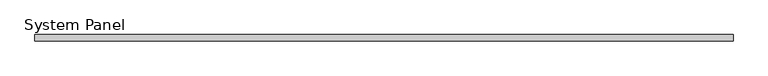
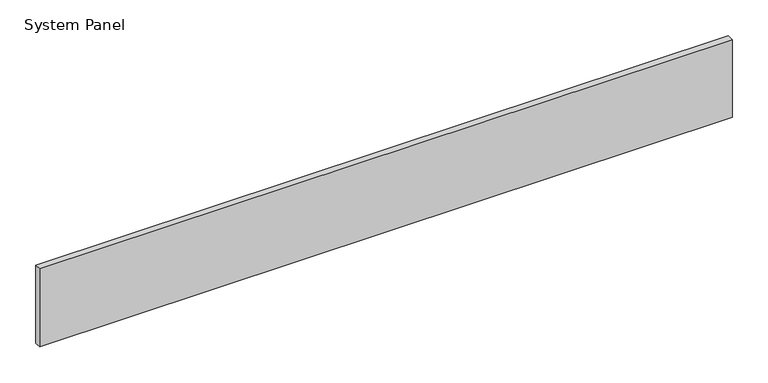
"""IFC4 building model written with IfcOpenShell, lengths in millimetres: plate geometry, System Panel : VACÍO."""

import ifcopenshell
import ifcopenshell.guid

model = None  # the IFC model being written
_history = None  # IfcOwnerHistory: only IFC2X3 demands one
_inside = {}  # id of a spatial element -> (the spatial element, [elements in it])
_under = {}  # id of a project, library or spatial element -> (it, [spatial elements below it])
_declared = {}  # id of a project -> (the project, [libraries it declares])
_typed = {}  # id of a type object -> (the type object, [elements of that type])
_made_of = {}  # id of a material, layer set ... -> (it, [elements and type objects made of it])


def new_model(schema):
    """Start an empty IFC model of exactly this schema.

    Asked for "IFC4X3", IfcOpenShell would pick the latest addendum, in which some entities
    have other attributes; the version numbers below select the first issue.
    IFC2X3 requires an IfcOwnerHistory on every rooted entity: one is made here for all.
    """
    global model, _history
    if schema == "IFC4X3":
        model = ifcopenshell.file(schema_version=(4, 3, 0, 0))
    else:
        model = ifcopenshell.file(schema=schema)
    _inside.clear()
    _under.clear()
    _declared.clear()
    _typed.clear()
    _made_of.clear()
    _history = None
    if model.schema == "IFC2X3":
        org = make("IfcOrganization", Name="unknown")
        user = make(
            "IfcPersonAndOrganization",
            ThePerson=make("IfcPerson", FamilyName="unknown"),
            TheOrganization=org,
        )
        app = make(
            "IfcApplication",
            ApplicationDeveloper=org,
            Version="unknown",
            ApplicationFullName="unknown",
            ApplicationIdentifier="unknown",
        )
        _history = make(
            "IfcOwnerHistory",
            OwningUser=user,
            OwningApplication=app,
            ChangeAction="ADDED",
            CreationDate=0,
        )
    return model


def make(cls, **values):
    """One entity of the class cls with the attributes given. An attribute that is None is left unset."""
    return model.create_entity(
        cls, **{name: value for name, value in values.items() if value is not None}
    )


def rooted(cls, **values):
    """An entity with a GlobalId (a new one), such as an element, a storey or a relation."""
    return make(cls, GlobalId=ifcopenshell.guid.new(), OwnerHistory=_history, **values)


def si_unit(unit_type, name, prefix=None):
    """IfcSIUnit, for example si_unit("LENGTHUNIT", "METRE", prefix="MILLI")."""
    return make("IfcSIUnit", UnitType=unit_type, Prefix=prefix, Name=name)


def assignment(units):
    """IfcUnitAssignment: the units of a project."""
    return None if units is None else make("IfcUnitAssignment", Units=units)


def point(xyz):
    """IfcCartesianPoint."""
    return None if xyz is None else make("IfcCartesianPoint", Coordinates=xyz)


def direction(xyz):
    """IfcDirection."""
    return None if xyz is None else make("IfcDirection", DirectionRatios=xyz)


def frame(location, z_axis=None, x_axis=None):
    """IfcAxis2Placement3D, a coordinate frame: its origin and axes. An axis left out is left unset."""
    return make(
        "IfcAxis2Placement3D",
        Location=point(location),
        Axis=direction(z_axis),
        RefDirection=direction(x_axis),
    )


def origin():
    """The frame at (0, 0, 0) with its axes left unset."""
    return frame((0.0, 0.0, 0.0))


def origin_with_axes():
    """The frame at (0, 0, 0) with the z axis (0, 0, 1) and the x axis (1, 0, 0) written out."""
    return frame((0.0, 0.0, 0.0), z_axis=(0.0, 0.0, 1.0), x_axis=(1.0, 0.0, 0.0))


def place(relative_to, where):
    """IfcLocalPlacement: puts the frame where relative to a parent placement (None: the world)."""
    return make(
        "IfcLocalPlacement", PlacementRelTo=relative_to, RelativePlacement=where
    )


def context(
    kind, dimensions, precision=None, world=None, true_north=None, identifier=None
):
    """IfcGeometricRepresentationContext, for example the 3D "Model" context."""
    return make(
        "IfcGeometricRepresentationContext",
        ContextIdentifier=identifier,
        ContextType=kind,
        CoordinateSpaceDimension=dimensions,
        Precision=precision,
        WorldCoordinateSystem=world,
        TrueNorth=true_north,
    )


def project(units=None, contexts=None):
    """IfcProject with its units and contexts."""
    return rooted(
        "IfcProject",
        Name="project",
        RepresentationContexts=contexts,
        UnitsInContext=assignment(units),
    )


def spatial(cls, under=None, at=None, **own):
    """A site, building, storey or space (cls), placed at a placement, below another one or the project."""
    s = rooted(cls, ObjectPlacement=at, **own)
    if under is not None:
        _under.setdefault(under.id(), (under, []))[1].append(s)
    return s


def polyline(points):
    """IfcPolyline through the points."""
    return make("IfcPolyline", Points=[point(p) for p in points])


def outline(outer, holes=None, kind="AREA"):
    """IfcArbitraryClosedProfileDef: a profile drawn as a closed curve; with holes, ...WithVoids."""
    if holes is None:
        return make("IfcArbitraryClosedProfileDef", ProfileType=kind, OuterCurve=outer)
    return make(
        "IfcArbitraryProfileDefWithVoids",
        ProfileType=kind,
        OuterCurve=outer,
        InnerCurves=holes,
    )


def extrude(swept, where, along, depth):
    """IfcExtrudedAreaSolid: the profile swept, set in the frame where, extruded along a direction by depth."""
    return make(
        "IfcExtrudedAreaSolid",
        SweptArea=swept,
        Position=where,
        ExtrudedDirection=direction(along),
        Depth=depth,
    )


def shape(context_of_items, identifier, shape_type, items):
    """IfcShapeRepresentation: the items that make up one representation, for example the "Body"."""
    return make(
        "IfcShapeRepresentation",
        ContextOfItems=context_of_items,
        RepresentationIdentifier=identifier,
        RepresentationType=shape_type,
        Items=items,
    )


def source(mapping_origin, context_of_items, identifier, shape_type, items):
    """IfcRepresentationMap: a shape defined once, which mapped items show again and again."""
    return make(
        "IfcRepresentationMap",
        MappingOrigin=mapping_origin,
        MappedRepresentation=shape(context_of_items, identifier, shape_type, items),
    )


def transform(
    local_origin,
    x_axis=None,
    y_axis=None,
    z_axis=None,
    scale=None,
    scale2=None,
    scale3=None,
    uniform=True,
):
    """IfcCartesianTransformationOperator3D, or its non-uniform kind. x_axis, y_axis, z_axis: its Axis1, 2, 3."""
    if uniform:
        return make(
            "IfcCartesianTransformationOperator3D",
            Axis1=direction(x_axis),
            Axis2=direction(y_axis),
            LocalOrigin=point(local_origin),
            Scale=scale,
            Axis3=direction(z_axis),
        )
    return make(
        "IfcCartesianTransformationOperator3DnonUniform",
        Axis1=direction(x_axis),
        Axis2=direction(y_axis),
        LocalOrigin=point(local_origin),
        Scale=scale,
        Axis3=direction(z_axis),
        Scale2=scale2,
        Scale3=scale3,
    )


def mapped(mapping_source, mapping_target):
    """IfcMappedItem: shows the shape of a source again, moved by a transform."""
    return make(
        "IfcMappedItem", MappingSource=mapping_source, MappingTarget=mapping_target
    )


def made_of(thing, what):
    """Note that an element or type object is made of a material, layer set ...; save() writes the relation."""
    if what is not None:
        _made_of.setdefault(what.id(), (what, []))[1].append(thing)
    return thing


def element(
    cls,
    number,
    at=None,
    inside=None,
    cuts=None,
    type_object=None,
    material=None,
    context=None,
    identifier="Body",
    shape_type=None,
    held_by="IfcProductDefinitionShape",
    body=None,
    shapes=None,
    **own,
):
    """One element of the class cls, such as IfcWall. Its Tag is "e" and its number.

    at: its placement. inside: the storey or other place that contains it. cuts: it is an
    opening in that element (IfcRelVoidsElement). A single representation is given by context,
    identifier, shape_type and body (its items); several are given by shapes. held_by: the class
    of the entity that holds the representations. save() writes the other relations.
    """
    e = rooted(cls, Tag="e%d" % number, ObjectPlacement=at, **own)
    if body is not None:
        shapes = [shape(context, identifier, shape_type, body)]
    if shapes is not None:
        e.Representation = make(held_by, Representations=shapes)
    if inside is not None:
        _inside.setdefault(inside.id(), (inside, []))[1].append(e)
    if cuts is not None:
        rooted(
            "IfcRelVoidsElement", RelatingBuildingElement=cuts, RelatedOpeningElement=e
        )
    if type_object is not None:
        _typed.setdefault(type_object.id(), (type_object, []))[1].append(e)
    return made_of(e, material)


def aggregate(whole, parts):
    """IfcRelAggregates: a whole, such as a stair, and the parts it consists of."""
    return rooted("IfcRelAggregates", RelatingObject=whole, RelatedObjects=parts)


def save(model, path):
    """Write the relations noted so far, then the file.

    IfcRelAggregates (storeys below a building ...), IfcRelContainedInSpatialStructure (elements
    in a storey), IfcRelDefinesByType, IfcRelAssociatesMaterial and IfcRelDeclares: one each for
    every whole, place, type object, material and project.
    """
    for whole, parts in _under.values():
        aggregate(whole, parts)
    for where, things in _inside.values():
        rooted(
            "IfcRelContainedInSpatialStructure",
            RelatedElements=things,
            RelatingStructure=where,
        )
    for kind, things in _typed.values():
        rooted("IfcRelDefinesByType", RelatedObjects=things, RelatingType=kind)
    for what, things in _made_of.values():
        rooted("IfcRelAssociatesMaterial", RelatedObjects=things, RelatingMaterial=what)
    for by, libraries in _declared.values():
        rooted("IfcRelDeclares", RelatingContext=by, RelatedDefinitions=libraries)
    model.write(path)


def system_panel_162e740d(model_context):
    return source(origin(), model_context, "Body", "SweptSolid", [
        extrude(outline(polyline([(556.1350437, -5.0), (-556.1350437, -5.0), (-556.1350437, 5.0), (556.1350437, 5.0), (556.1350437, -5.0)])), origin_with_axes(), (0.0, 0.0, 1.0), 132.033564),
    ])


if __name__ == "__main__":
    model = new_model("IFC4")
    model_context = context("Model", 3, world=origin())
    ifc_project = project(units=[si_unit("LENGTHUNIT", "METRE", prefix="MILLI")], contexts=[model_context])
    site = spatial("IfcSite", under=ifc_project)
    building = spatial("IfcBuilding", under=site)
    placement = place(None, origin())
    system_panel_shape = system_panel_162e740d(model_context)
    element("IfcPlate", 1, ObjectType="System Panel : VACÍO", at=placement, inside=building, context=model_context, shape_type="MappedRepresentation", body=[
        mapped(system_panel_shape, transform((0.0, 0.0, 0.0), x_axis=(1.0, 0.0, 0.0), y_axis=(0.0, 1.0, 0.0), z_axis=(0.0, 0.0, 1.0))),
    ])
    save(model, "model.ifc")
